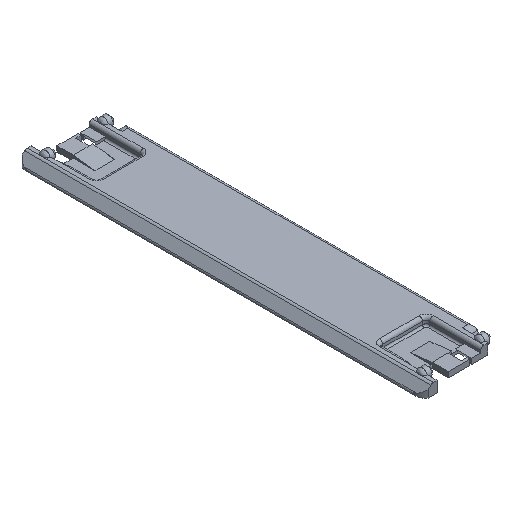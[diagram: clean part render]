
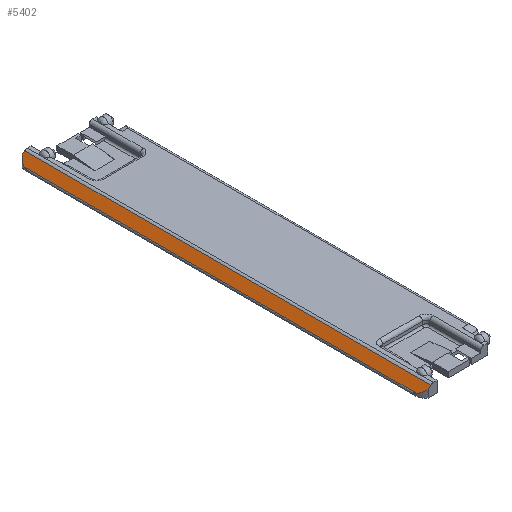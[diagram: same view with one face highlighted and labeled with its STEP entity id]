
A CAD part, isometric view. The second image highlights one B-rep face of the part: STEP entity #5402.
In plain terms, the highlighted planar face has unit normal (-0.669, 0, 0.743).
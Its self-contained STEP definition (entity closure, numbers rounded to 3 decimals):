
#1307=CARTESIAN_POINT('',(-9.001,88.5,1.243));
#1308=VERTEX_POINT('',#1307);
#1340=CARTESIAN_POINT('',(-9.75,88.5,0.568));
#1341=VERTEX_POINT('',#1340);
#1348=CARTESIAN_POINT('',(-9.75,88.5,0.568));
#1349=DIRECTION('',(0.743,0.0,0.669));
#1350=VECTOR('',#1349,1.008);
#1351=LINE('',#1348,#1350);
#1352=EDGE_CURVE('',#1341,#1308,#1351,.T.);
#1519=CARTESIAN_POINT('',(-11.083,86.521,-0.632));
#1520=VERTEX_POINT('',#1519);
#1544=CARTESIAN_POINT('',(-7.25,85.378,2.819));
#1545=DIRECTION('',(-0.669,0.,0.743));
#1546=DIRECTION('',(-0.743,0.,-0.669));
#1547=AXIS2_PLACEMENT_3D('',#1544,#1545,#1546);
#1548=ELLIPSE('',#1547,5.383,4.0);
#1549=EDGE_CURVE('',#1341,#1520,#1548,.T.);
#2623=CARTESIAN_POINT('',(-11.083,-21.521,-0.632));
#2624=VERTEX_POINT('',#2623);
#2646=CARTESIAN_POINT('',(-11.083,-21.521,-0.632));
#2647=DIRECTION('',(0.0,1.0,0.0));
#2648=VECTOR('',#2647,108.041);
#2649=LINE('',#2646,#2648);
#2650=EDGE_CURVE('',#2624,#1520,#2649,.T.);
#3075=CARTESIAN_POINT('',(-9.001,-23.5,1.243));
#3076=VERTEX_POINT('',#3075);
#3077=CARTESIAN_POINT('',(-9.001,88.5,1.243));
#3078=DIRECTION('',(0.0,-1.0,0.0));
#3079=VECTOR('',#3078,112.);
#3080=LINE('',#3077,#3079);
#3081=EDGE_CURVE('',#1308,#3076,#3080,.T.);
#4195=CARTESIAN_POINT('',(-9.75,-23.5,0.568));
#4196=VERTEX_POINT('',#4195);
#4197=CARTESIAN_POINT('',(-9.75,-23.5,0.568));
#4198=DIRECTION('',(0.743,0.,0.669));
#4199=VECTOR('',#4198,1.008);
#4200=LINE('',#4197,#4199);
#4201=EDGE_CURVE('',#4196,#3076,#4200,.T.);
#4384=CARTESIAN_POINT('',(-7.25,-20.378,2.819));
#4385=DIRECTION('',(0.669,0.,-0.743));
#4386=DIRECTION('',(-0.743,0.,-0.669));
#4387=AXIS2_PLACEMENT_3D('',#4384,#4385,#4386);
#4388=ELLIPSE('',#4387,5.383,4.0);
#4389=EDGE_CURVE('',#4196,#2624,#4388,.T.);
#5389=CARTESIAN_POINT('',(-8.715,23.5,1.5));
#5390=DIRECTION('',(0.669,0.0,-0.743));
#5391=DIRECTION('',(-0.743,0.0,-0.669));
#5392=AXIS2_PLACEMENT_3D('',#5389,#5390,#5391);
#5393=PLANE('',#5392);
#5394=ORIENTED_EDGE('',*,*,#2650,.F.);
#5395=ORIENTED_EDGE('',*,*,#4389,.F.);
#5396=ORIENTED_EDGE('',*,*,#4201,.T.);
#5397=ORIENTED_EDGE('',*,*,#3081,.F.);
#5398=ORIENTED_EDGE('',*,*,#1352,.F.);
#5399=ORIENTED_EDGE('',*,*,#1549,.T.);
#5400=EDGE_LOOP('',(#5394,#5395,#5396,#5397,#5398,#5399));
#5401=FACE_OUTER_BOUND('',#5400,.T.);
#5402=ADVANCED_FACE('',(#5401),#5393,.F.);
